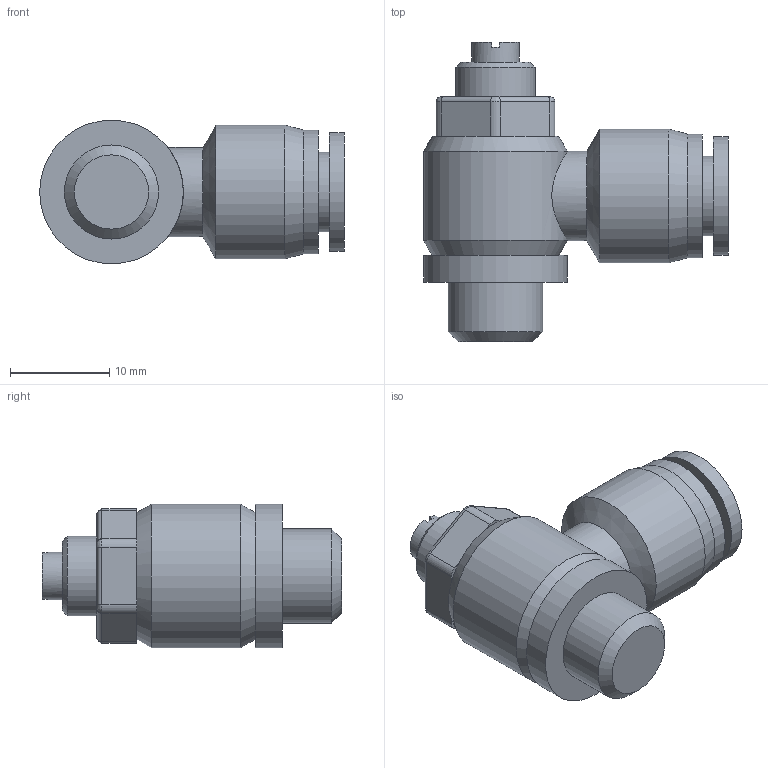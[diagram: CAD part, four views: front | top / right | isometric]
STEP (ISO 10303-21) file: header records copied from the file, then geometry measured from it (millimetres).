
FILE_DESCRIPTION((''),'2;1');
FILE_NAME('S:\UTecnico\ArchivioUT\Speciali Clienti\Speciali KONFIT\DP\06\DP 79\DP79C1806.stp','2012-04-26T11:46:04',('UT5'),(''),'Autodesk Inventor 2012','Autodesk Inventor 2012','');
FILE_SCHEMA(('AUTOMOTIVE_DESIGN { 1 0 10303 214 1 1 1 1 }'));
Length unit declared in the file: millimetre
Products named in the file (1): DP79C1806
Bounding box: 30.75 x 30.2 x 14.5 mm (x, y, z)
Volume: 5422.2 mm3; surface area: 2316.4 mm2
Topology: 1 solids, 1 shells, 65 faces, 136 edges, 79 vertices
Faces by surface type: plane 31, cylinder 22, cone 6, bspline 6
Full cylindrical faces by diameter (mm): 4.8 x1, 8 x2, 9 x1, 9.5 x1, 12 x1, 12.5 x1, 13.5 x1, 14.5 x2
Entity records: 1847 total; most frequent: CARTESIAN_POINT 457, DIRECTION 304, ORIENTED_EDGE 238, AXIS2_PLACEMENT_3D 127, EDGE_CURVE 119, EDGE_LOOP 86, VERTEX_POINT 77, CIRCLE 67
